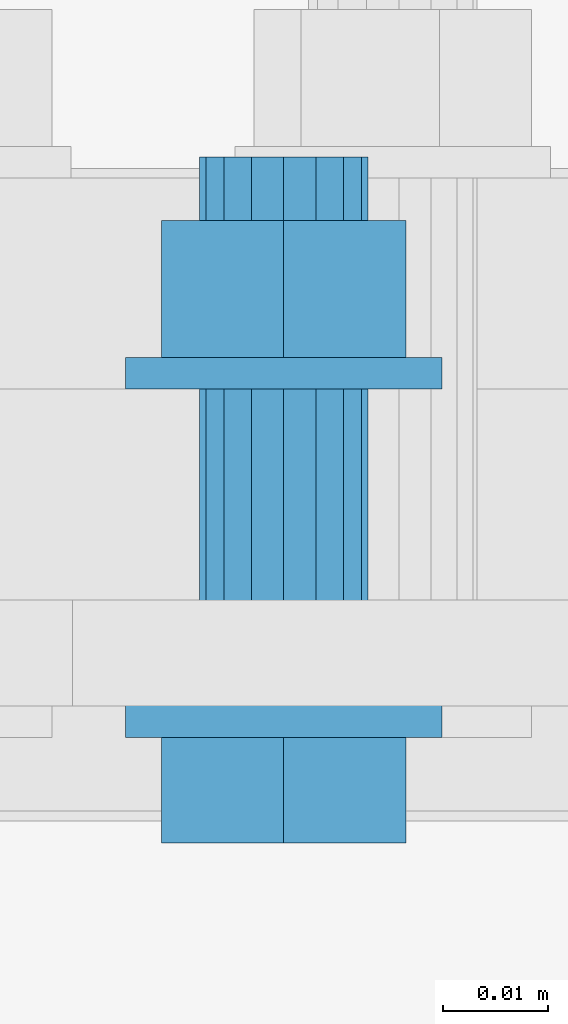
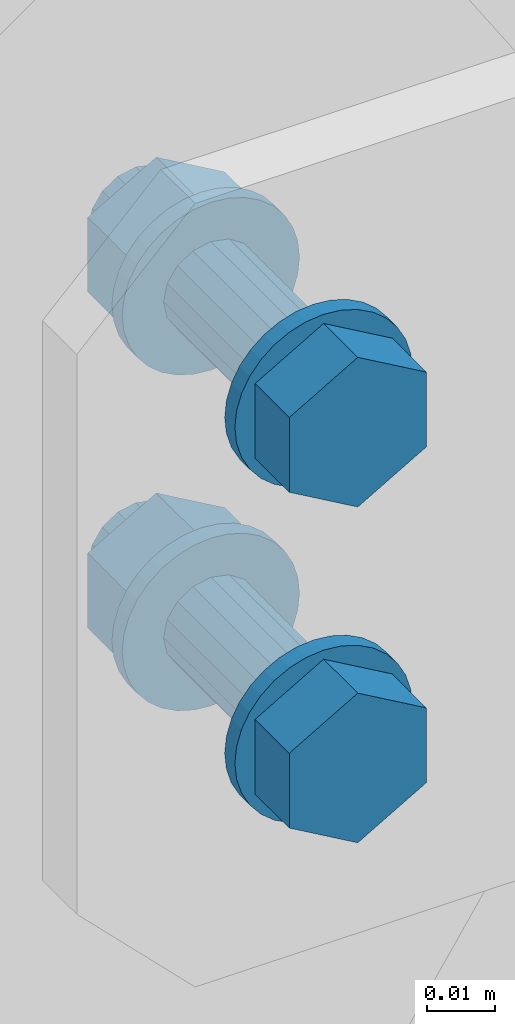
# One storey, part 368 of 825: 1 mechanical fastener.
"""IFC2X3 building model written with IfcOpenShell, lengths in millimetres."""

from ifc_helpers import new_model, entity, si_unit, converted_unit, origin_with_axes, place, context, project, spatial, faceted_brep, element, save


model = new_model("IFC2X3")

# Units and contexts
model_context = context("Model", 3, precision=1e-09, world=origin_with_axes())
ifc_project = project(units=[si_unit("LENGTHUNIT", "METRE", prefix="MILLI"), si_unit("AREAUNIT", "SQUARE_METRE"), si_unit("VOLUMEUNIT", "CUBIC_METRE"), converted_unit("PLANEANGLEUNIT", "DEGREE", entity("IfcPlaneAngleMeasure", 0.01745329), si_unit("PLANEANGLEUNIT", "RADIAN"), dimensions=[0, 0, 0, 0, 0, 0, 0])], contexts=[model_context])

# Site, building, storey
site_placement = place(None, origin_with_axes())
site = spatial("IfcSite", under=ifc_project, at=site_placement, Name="Cnopf'sche Kinderklinik", CompositionType="ELEMENT")
building_placement = place(site_placement, origin_with_axes())
building = spatial("IfcBuilding", under=site, at=building_placement, Name="Struktur 1", CompositionType="ELEMENT")
storey_placement = place(building_placement, origin_with_axes())
storey = spatial("IfcBuildingStorey", under=building, at=storey_placement, Name="Default Storey", CompositionType="ELEMENT", Elevation=0.0)

# Mechanical fastener
mechanical_fastener_placement = place(None, origin_with_axes())
element("IfcMechanicalFastener", 1, at=mechanical_fastener_placement, inside=storey, ObjectType="-", NominalDiameter=16.0, NominalLength=55.0, context=model_context, shape_type="Brep", body=[
    faceted_brep([(5134.963401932, 7496.736971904, 9646.999996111), (5134.963401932, 7493.736971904, 9646.999996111), (5134.675181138, 7493.736971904, 9644.073641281), (5134.675181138, 7496.736971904, 9644.073641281), (5133.82159492, 7493.736971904, 9641.259744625), (5133.82159492, 7496.736971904, 9641.259744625), (5132.435446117, 7493.736971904, 9638.666442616), (5132.435446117, 7496.736971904, 9638.666442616), (5130.57000365, 7493.736971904, 9636.393394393), (5130.57000365, 7496.736971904, 9636.393394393), (5128.296955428, 7493.736971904, 9634.527951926), (5128.296955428, 7496.736971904, 9634.527951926), (5125.703653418, 7493.736971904, 9633.141803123), (5125.703653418, 7496.736971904, 9633.141803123), (5122.889756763, 7493.736971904, 9632.288216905), (5122.889756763, 7496.736971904, 9632.288216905), (5119.963401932, 7493.736971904, 9631.999996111), (5119.963401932, 7496.736971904, 9631.999996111), (5117.037047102, 7493.736971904, 9632.288216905), (5117.037047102, 7496.736971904, 9632.288216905), (5114.223150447, 7493.736971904, 9633.141803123), (5114.223150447, 7496.736971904, 9633.141803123), (5111.629848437, 7493.736971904, 9634.527951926), (5111.629848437, 7496.736971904, 9634.527951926), (5109.356800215, 7493.736971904, 9636.393394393), (5109.356800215, 7496.736971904, 9636.393394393), (5107.491357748, 7493.736971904, 9638.666442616), (5107.491357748, 7496.736971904, 9638.666442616), (5106.105208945, 7493.736971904, 9641.259744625), (5106.105208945, 7496.736971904, 9641.259744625), (5105.251622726, 7493.736971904, 9644.073641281), (5105.251622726, 7496.736971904, 9644.073641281), (5104.963401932, 7493.736971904, 9646.999996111), (5104.963401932, 7496.736971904, 9646.999996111), (5105.251622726, 7493.736971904, 9649.926350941), (5105.251622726, 7496.736971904, 9649.926350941), (5106.105208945, 7493.736971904, 9652.740247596), (5106.105208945, 7496.736971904, 9652.740247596), (5107.491357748, 7493.736971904, 9655.333549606), (5107.491357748, 7496.736971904, 9655.333549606), (5109.356800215, 7493.736971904, 9657.606597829), (5109.356800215, 7496.736971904, 9657.606597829), (5111.629848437, 7493.736971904, 9659.472040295), (5111.629848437, 7496.736971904, 9659.472040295), (5114.223150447, 7493.736971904, 9660.858189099), (5114.223150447, 7496.736971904, 9660.858189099), (5117.037047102, 7493.736971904, 9661.711775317), (5117.037047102, 7496.736971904, 9661.711775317), (5119.963401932, 7493.736971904, 9661.999996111), (5119.963401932, 7496.736971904, 9661.999996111), (5122.889756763, 7493.736971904, 9661.711775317), (5122.889756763, 7496.736971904, 9661.711775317), (5125.703653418, 7493.736971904, 9660.858189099), (5125.703653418, 7496.736971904, 9660.858189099), (5128.296955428, 7493.736971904, 9659.472040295), (5128.296955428, 7496.736971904, 9659.472040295), (5130.57000365, 7493.736971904, 9657.606597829), (5130.57000365, 7496.736971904, 9657.606597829), (5132.435446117, 7493.736971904, 9655.333549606), (5132.435446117, 7496.736971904, 9655.333549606), (5133.82159492, 7493.736971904, 9652.740247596), (5133.82159492, 7496.736971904, 9652.740247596), (5134.675181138, 7493.736971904, 9649.926350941), (5134.675181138, 7496.736971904, 9649.926350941)], [[[0, 1, 2, 3]], [[3, 2, 4, 5]], [[5, 4, 6, 7]], [[7, 6, 8, 9]], [[9, 8, 10, 11]], [[11, 10, 12, 13]], [[13, 12, 14, 15]], [[15, 14, 16, 17]], [[17, 16, 18, 19]], [[19, 18, 20, 21]], [[21, 20, 22, 23]], [[23, 22, 24, 25]], [[25, 24, 26, 27]], [[27, 26, 28, 29]], [[29, 28, 30, 31]], [[31, 30, 32, 33]], [[33, 32, 34, 35]], [[35, 34, 36, 37]], [[37, 36, 38, 39]], [[39, 38, 40, 41]], [[41, 40, 42, 43]], [[43, 42, 44, 45]], [[45, 44, 46, 47]], [[47, 46, 48, 49]], [[49, 48, 50, 51]], [[51, 50, 52, 53]], [[53, 52, 54, 55]], [[55, 54, 56, 57]], [[57, 56, 58, 59]], [[59, 58, 60, 61]], [[61, 60, 62, 63]], [[63, 62, 1, 0]], [[2, 1, 62, 60, 58, 56, 54, 52, 50, 48, 46, 44, 42, 40, 38, 36, 34, 32, 30, 28, 26, 24, 22, 20, 18, 16, 14, 12, 10, 8, 6, 4]], [[63, 0, 3, 5, 7, 9, 11, 13, 15, 17, 19, 21, 23, 25, 27, 29, 31, 33, 35, 37, 39, 41, 43, 45, 47, 49, 51, 53, 55, 57, 59, 61]]]),
    faceted_brep([(5134.963401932, 7496.736971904, 9586.999996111), (5134.963401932, 7493.736971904, 9586.999996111), (5134.675181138, 7493.736971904, 9584.073641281), (5134.675181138, 7496.736971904, 9584.073641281), (5133.82159492, 7493.736971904, 9581.259744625), (5133.82159492, 7496.736971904, 9581.259744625), (5132.435446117, 7493.736971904, 9578.666442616), (5132.435446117, 7496.736971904, 9578.666442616), (5130.57000365, 7493.736971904, 9576.393394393), (5130.57000365, 7496.736971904, 9576.393394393), (5128.296955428, 7493.736971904, 9574.527951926), (5128.296955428, 7496.736971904, 9574.527951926), (5125.703653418, 7493.736971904, 9573.141803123), (5125.703653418, 7496.736971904, 9573.141803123), (5122.889756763, 7493.736971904, 9572.288216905), (5122.889756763, 7496.736971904, 9572.288216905), (5119.963401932, 7493.736971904, 9571.999996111), (5119.963401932, 7496.736971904, 9571.999996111), (5117.037047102, 7493.736971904, 9572.288216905), (5117.037047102, 7496.736971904, 9572.288216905), (5114.223150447, 7493.736971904, 9573.141803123), (5114.223150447, 7496.736971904, 9573.141803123), (5111.629848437, 7493.736971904, 9574.527951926), (5111.629848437, 7496.736971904, 9574.527951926), (5109.356800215, 7493.736971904, 9576.393394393), (5109.356800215, 7496.736971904, 9576.393394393), (5107.491357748, 7493.736971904, 9578.666442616), (5107.491357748, 7496.736971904, 9578.666442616), (5106.105208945, 7493.736971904, 9581.259744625), (5106.105208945, 7496.736971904, 9581.259744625), (5105.251622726, 7493.736971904, 9584.073641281), (5105.251622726, 7496.736971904, 9584.073641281), (5104.963401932, 7493.736971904, 9586.999996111), (5104.963401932, 7496.736971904, 9586.999996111), (5105.251622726, 7493.736971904, 9589.926350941), (5105.251622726, 7496.736971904, 9589.926350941), (5106.105208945, 7493.736971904, 9592.740247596), (5106.105208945, 7496.736971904, 9592.740247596), (5107.491357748, 7493.736971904, 9595.333549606), (5107.491357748, 7496.736971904, 9595.333549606), (5109.356800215, 7493.736971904, 9597.606597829), (5109.356800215, 7496.736971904, 9597.606597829), (5111.629848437, 7493.736971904, 9599.472040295), (5111.629848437, 7496.736971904, 9599.472040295), (5114.223150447, 7493.736971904, 9600.858189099), (5114.223150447, 7496.736971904, 9600.858189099), (5117.037047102, 7493.736971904, 9601.711775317), (5117.037047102, 7496.736971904, 9601.711775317), (5119.963401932, 7493.736971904, 9601.999996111), (5119.963401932, 7496.736971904, 9601.999996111), (5122.889756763, 7493.736971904, 9601.711775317), (5122.889756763, 7496.736971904, 9601.711775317), (5125.703653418, 7493.736971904, 9600.858189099), (5125.703653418, 7496.736971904, 9600.858189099), (5128.296955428, 7493.736971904, 9599.472040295), (5128.296955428, 7496.736971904, 9599.472040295), (5130.57000365, 7493.736971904, 9597.606597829), (5130.57000365, 7496.736971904, 9597.606597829), (5132.435446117, 7493.736971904, 9595.333549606), (5132.435446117, 7496.736971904, 9595.333549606), (5133.82159492, 7493.736971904, 9592.740247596), (5133.82159492, 7496.736971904, 9592.740247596), (5134.675181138, 7493.736971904, 9589.926350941), (5134.675181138, 7496.736971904, 9589.926350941)], [[[0, 1, 2, 3]], [[3, 2, 4, 5]], [[5, 4, 6, 7]], [[7, 6, 8, 9]], [[9, 8, 10, 11]], [[11, 10, 12, 13]], [[13, 12, 14, 15]], [[15, 14, 16, 17]], [[17, 16, 18, 19]], [[19, 18, 20, 21]], [[21, 20, 22, 23]], [[23, 22, 24, 25]], [[25, 24, 26, 27]], [[27, 26, 28, 29]], [[29, 28, 30, 31]], [[31, 30, 32, 33]], [[33, 32, 34, 35]], [[35, 34, 36, 37]], [[37, 36, 38, 39]], [[39, 38, 40, 41]], [[41, 40, 42, 43]], [[43, 42, 44, 45]], [[45, 44, 46, 47]], [[47, 46, 48, 49]], [[49, 48, 50, 51]], [[51, 50, 52, 53]], [[53, 52, 54, 55]], [[55, 54, 56, 57]], [[57, 56, 58, 59]], [[59, 58, 60, 61]], [[61, 60, 62, 63]], [[63, 62, 1, 0]], [[2, 1, 62, 60, 58, 56, 54, 52, 50, 48, 46, 44, 42, 40, 38, 36, 34, 32, 30, 28, 26, 24, 22, 20, 18, 16, 14, 12, 10, 8, 6, 4]], [[63, 0, 3, 5, 7, 9, 11, 13, 15, 17, 19, 21, 23, 25, 27, 29, 31, 33, 35, 37, 39, 41, 43, 45, 47, 49, 51, 53, 55, 57, 59, 61]]]),
    faceted_brep([(5108.380312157, 7483.736971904, 9640.312496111), (5108.380312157, 7493.736971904, 9640.312496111), (5119.963401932, 7493.736971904, 9633.624996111), (5119.963401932, 7483.736971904, 9633.624996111), (5131.546491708, 7493.736971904, 9640.312496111), (5131.546491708, 7483.736971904, 9640.312496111), (5131.546491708, 7493.736971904, 9653.687496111), (5131.546491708, 7483.736971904, 9653.687496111), (5119.963401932, 7493.736971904, 9660.374996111), (5119.963401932, 7483.736971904, 9660.374996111), (5108.380312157, 7493.736971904, 9653.687496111), (5108.380312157, 7483.736971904, 9653.687496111)], [[[0, 1, 2, 3]], [[3, 2, 4, 5]], [[5, 4, 6, 7]], [[7, 6, 8, 9]], [[9, 8, 10, 11]], [[11, 10, 1, 0]], [[3, 5, 7, 9, 11, 0]], [[2, 1, 10, 8, 6, 4]]]),
    faceted_brep([(5108.380312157, 7483.736971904, 9580.312496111), (5108.380312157, 7493.736971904, 9580.312496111), (5119.963401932, 7493.736971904, 9573.624996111), (5119.963401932, 7483.736971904, 9573.624996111), (5131.546491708, 7493.736971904, 9580.312496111), (5131.546491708, 7483.736971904, 9580.312496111), (5131.546491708, 7493.736971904, 9593.687496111), (5131.546491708, 7483.736971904, 9593.687496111), (5119.963401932, 7493.736971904, 9600.374996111), (5119.963401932, 7483.736971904, 9600.374996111), (5108.380312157, 7493.736971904, 9593.687496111), (5108.380312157, 7483.736971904, 9593.687496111)], [[[0, 1, 2, 3]], [[3, 2, 4, 5]], [[5, 4, 6, 7]], [[7, 6, 8, 9]], [[9, 8, 10, 11]], [[11, 10, 1, 0]], [[3, 5, 7, 9, 11, 0]], [[2, 1, 10, 8, 6, 4]]]),
    faceted_brep([(5127.963401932, 7526.736971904, 9646.999996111), (5127.963401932, 7496.736971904, 9646.999996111), (5127.354438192, 7496.736971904, 9643.938528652), (5127.354438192, 7526.736971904, 9643.938528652), (5125.620256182, 7496.736971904, 9641.343141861), (5125.620256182, 7526.736971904, 9641.343141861), (5123.024869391, 7496.736971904, 9639.608959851), (5123.024869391, 7526.736971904, 9639.608959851), (5119.963401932, 7496.736971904, 9638.999996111), (5119.963401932, 7526.736971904, 9638.999996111), (5116.901934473, 7496.736971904, 9639.608959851), (5116.901934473, 7526.736971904, 9639.608959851), (5114.306547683, 7496.736971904, 9641.343141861), (5114.306547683, 7526.736971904, 9641.343141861), (5112.572365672, 7496.736971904, 9643.938528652), (5112.572365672, 7526.736971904, 9643.938528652), (5111.963401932, 7496.736971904, 9646.999996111), (5111.963401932, 7526.736971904, 9646.999996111), (5112.572365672, 7496.736971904, 9650.06146357), (5112.572365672, 7526.736971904, 9650.06146357), (5114.306547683, 7496.736971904, 9652.65685036), (5114.306547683, 7526.736971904, 9652.65685036), (5116.901934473, 7496.736971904, 9654.391032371), (5116.901934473, 7526.736971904, 9654.391032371), (5119.963401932, 7496.736971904, 9654.999996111), (5119.963401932, 7526.736971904, 9654.999996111), (5123.024869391, 7496.736971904, 9654.391032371), (5123.024869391, 7526.736971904, 9654.391032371), (5125.620256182, 7496.736971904, 9652.65685036), (5125.620256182, 7526.736971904, 9652.65685036), (5127.354438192, 7496.736971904, 9650.06146357), (5127.354438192, 7526.736971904, 9650.06146357)], [[[0, 1, 2, 3]], [[3, 2, 4, 5]], [[5, 4, 6, 7]], [[7, 6, 8, 9]], [[9, 8, 10, 11]], [[11, 10, 12, 13]], [[13, 12, 14, 15]], [[15, 14, 16, 17]], [[17, 16, 18, 19]], [[19, 18, 20, 21]], [[21, 20, 22, 23]], [[23, 22, 24, 25]], [[25, 24, 26, 27]], [[27, 26, 28, 29]], [[29, 28, 30, 31]], [[31, 30, 1, 0]], [[2, 1, 30, 28, 26, 24, 22, 20, 18, 16, 14, 12, 10, 8, 6, 4]], [[31, 0, 3, 5, 7, 9, 11, 13, 15, 17, 19, 21, 23, 25, 27, 29]]]),
    faceted_brep([(5127.963401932, 7526.736971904, 9586.999996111), (5127.963401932, 7496.736971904, 9586.999996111), (5127.354438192, 7496.736971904, 9583.938528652), (5127.354438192, 7526.736971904, 9583.938528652), (5125.620256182, 7496.736971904, 9581.343141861), (5125.620256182, 7526.736971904, 9581.343141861), (5123.024869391, 7496.736971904, 9579.608959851), (5123.024869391, 7526.736971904, 9579.608959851), (5119.963401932, 7496.736971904, 9578.999996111), (5119.963401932, 7526.736971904, 9578.999996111), (5116.901934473, 7496.736971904, 9579.608959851), (5116.901934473, 7526.736971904, 9579.608959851), (5114.306547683, 7496.736971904, 9581.343141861), (5114.306547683, 7526.736971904, 9581.343141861), (5112.572365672, 7496.736971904, 9583.938528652), (5112.572365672, 7526.736971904, 9583.938528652), (5111.963401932, 7496.736971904, 9586.999996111), (5111.963401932, 7526.736971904, 9586.999996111), (5112.572365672, 7496.736971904, 9590.06146357), (5112.572365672, 7526.736971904, 9590.06146357), (5114.306547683, 7496.736971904, 9592.65685036), (5114.306547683, 7526.736971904, 9592.65685036), (5116.901934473, 7496.736971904, 9594.391032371), (5116.901934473, 7526.736971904, 9594.391032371), (5119.963401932, 7496.736971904, 9594.999996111), (5119.963401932, 7526.736971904, 9594.999996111), (5123.024869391, 7496.736971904, 9594.391032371), (5123.024869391, 7526.736971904, 9594.391032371), (5125.620256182, 7496.736971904, 9592.65685036), (5125.620256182, 7526.736971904, 9592.65685036), (5127.354438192, 7496.736971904, 9590.06146357), (5127.354438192, 7526.736971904, 9590.06146357)], [[[0, 1, 2, 3]], [[3, 2, 4, 5]], [[5, 4, 6, 7]], [[7, 6, 8, 9]], [[9, 8, 10, 11]], [[11, 10, 12, 13]], [[13, 12, 14, 15]], [[15, 14, 16, 17]], [[17, 16, 18, 19]], [[19, 18, 20, 21]], [[21, 20, 22, 23]], [[23, 22, 24, 25]], [[25, 24, 26, 27]], [[27, 26, 28, 29]], [[29, 28, 30, 31]], [[31, 30, 1, 0]], [[2, 1, 30, 28, 26, 24, 22, 20, 18, 16, 14, 12, 10, 8, 6, 4]], [[31, 0, 3, 5, 7, 9, 11, 13, 15, 17, 19, 21, 23, 25, 27, 29]]]),
    faceted_brep([(5134.963401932, 7529.736971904, 9646.999996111), (5134.963401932, 7526.736971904, 9646.999996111), (5134.675181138, 7526.736971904, 9644.073641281), (5134.675181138, 7529.736971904, 9644.073641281), (5133.82159492, 7526.736971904, 9641.259744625), (5133.82159492, 7529.736971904, 9641.259744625), (5132.435446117, 7526.736971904, 9638.666442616), (5132.435446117, 7529.736971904, 9638.666442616), (5130.57000365, 7526.736971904, 9636.393394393), (5130.57000365, 7529.736971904, 9636.393394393), (5128.296955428, 7526.736971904, 9634.527951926), (5128.296955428, 7529.736971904, 9634.527951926), (5125.703653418, 7526.736971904, 9633.141803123), (5125.703653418, 7529.736971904, 9633.141803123), (5122.889756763, 7526.736971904, 9632.288216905), (5122.889756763, 7529.736971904, 9632.288216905), (5119.963401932, 7526.736971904, 9631.999996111), (5119.963401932, 7529.736971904, 9631.999996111), (5117.037047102, 7526.736971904, 9632.288216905), (5117.037047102, 7529.736971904, 9632.288216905), (5114.223150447, 7526.736971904, 9633.141803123), (5114.223150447, 7529.736971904, 9633.141803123), (5111.629848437, 7526.736971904, 9634.527951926), (5111.629848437, 7529.736971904, 9634.527951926), (5109.356800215, 7526.736971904, 9636.393394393), (5109.356800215, 7529.736971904, 9636.393394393), (5107.491357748, 7526.736971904, 9638.666442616), (5107.491357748, 7529.736971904, 9638.666442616), (5106.105208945, 7526.736971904, 9641.259744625), (5106.105208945, 7529.736971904, 9641.259744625), (5105.251622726, 7526.736971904, 9644.073641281), (5105.251622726, 7529.736971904, 9644.073641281), (5104.963401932, 7526.736971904, 9646.999996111), (5104.963401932, 7529.736971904, 9646.999996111), (5105.251622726, 7526.736971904, 9649.926350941), (5105.251622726, 7529.736971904, 9649.926350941), (5106.105208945, 7526.736971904, 9652.740247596), (5106.105208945, 7529.736971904, 9652.740247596), (5107.491357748, 7526.736971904, 9655.333549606), (5107.491357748, 7529.736971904, 9655.333549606), (5109.356800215, 7526.736971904, 9657.606597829), (5109.356800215, 7529.736971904, 9657.606597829), (5111.629848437, 7526.736971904, 9659.472040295), (5111.629848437, 7529.736971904, 9659.472040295), (5114.223150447, 7526.736971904, 9660.858189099), (5114.223150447, 7529.736971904, 9660.858189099), (5117.037047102, 7526.736971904, 9661.711775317), (5117.037047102, 7529.736971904, 9661.711775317), (5119.963401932, 7526.736971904, 9661.999996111), (5119.963401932, 7529.736971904, 9661.999996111), (5122.889756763, 7526.736971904, 9661.711775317), (5122.889756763, 7529.736971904, 9661.711775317), (5125.703653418, 7526.736971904, 9660.858189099), (5125.703653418, 7529.736971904, 9660.858189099), (5128.296955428, 7526.736971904, 9659.472040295), (5128.296955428, 7529.736971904, 9659.472040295), (5130.57000365, 7526.736971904, 9657.606597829), (5130.57000365, 7529.736971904, 9657.606597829), (5132.435446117, 7526.736971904, 9655.333549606), (5132.435446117, 7529.736971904, 9655.333549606), (5133.82159492, 7526.736971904, 9652.740247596), (5133.82159492, 7529.736971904, 9652.740247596), (5134.675181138, 7526.736971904, 9649.926350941), (5134.675181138, 7529.736971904, 9649.926350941)], [[[0, 1, 2, 3]], [[3, 2, 4, 5]], [[5, 4, 6, 7]], [[7, 6, 8, 9]], [[9, 8, 10, 11]], [[11, 10, 12, 13]], [[13, 12, 14, 15]], [[15, 14, 16, 17]], [[17, 16, 18, 19]], [[19, 18, 20, 21]], [[21, 20, 22, 23]], [[23, 22, 24, 25]], [[25, 24, 26, 27]], [[27, 26, 28, 29]], [[29, 28, 30, 31]], [[31, 30, 32, 33]], [[33, 32, 34, 35]], [[35, 34, 36, 37]], [[37, 36, 38, 39]], [[39, 38, 40, 41]], [[41, 40, 42, 43]], [[43, 42, 44, 45]], [[45, 44, 46, 47]], [[47, 46, 48, 49]], [[49, 48, 50, 51]], [[51, 50, 52, 53]], [[53, 52, 54, 55]], [[55, 54, 56, 57]], [[57, 56, 58, 59]], [[59, 58, 60, 61]], [[61, 60, 62, 63]], [[63, 62, 1, 0]], [[2, 1, 62, 60, 58, 56, 54, 52, 50, 48, 46, 44, 42, 40, 38, 36, 34, 32, 30, 28, 26, 24, 22, 20, 18, 16, 14, 12, 10, 8, 6, 4]], [[63, 0, 3, 5, 7, 9, 11, 13, 15, 17, 19, 21, 23, 25, 27, 29, 31, 33, 35, 37, 39, 41, 43, 45, 47, 49, 51, 53, 55, 57, 59, 61]]]),
    faceted_brep([(5134.963401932, 7529.736971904, 9586.999996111), (5134.963401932, 7526.736971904, 9586.999996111), (5134.675181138, 7526.736971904, 9584.073641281), (5134.675181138, 7529.736971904, 9584.073641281), (5133.82159492, 7526.736971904, 9581.259744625), (5133.82159492, 7529.736971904, 9581.259744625), (5132.435446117, 7526.736971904, 9578.666442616), (5132.435446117, 7529.736971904, 9578.666442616), (5130.57000365, 7526.736971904, 9576.393394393), (5130.57000365, 7529.736971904, 9576.393394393), (5128.296955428, 7526.736971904, 9574.527951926), (5128.296955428, 7529.736971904, 9574.527951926), (5125.703653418, 7526.736971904, 9573.141803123), (5125.703653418, 7529.736971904, 9573.141803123), (5122.889756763, 7526.736971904, 9572.288216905), (5122.889756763, 7529.736971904, 9572.288216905), (5119.963401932, 7526.736971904, 9571.999996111), (5119.963401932, 7529.736971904, 9571.999996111), (5117.037047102, 7526.736971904, 9572.288216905), (5117.037047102, 7529.736971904, 9572.288216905), (5114.223150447, 7526.736971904, 9573.141803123), (5114.223150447, 7529.736971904, 9573.141803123), (5111.629848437, 7526.736971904, 9574.527951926), (5111.629848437, 7529.736971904, 9574.527951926), (5109.356800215, 7526.736971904, 9576.393394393), (5109.356800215, 7529.736971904, 9576.393394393), (5107.491357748, 7526.736971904, 9578.666442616), (5107.491357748, 7529.736971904, 9578.666442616), (5106.105208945, 7526.736971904, 9581.259744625), (5106.105208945, 7529.736971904, 9581.259744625), (5105.251622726, 7526.736971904, 9584.073641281), (5105.251622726, 7529.736971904, 9584.073641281), (5104.963401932, 7526.736971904, 9586.999996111), (5104.963401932, 7529.736971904, 9586.999996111), (5105.251622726, 7526.736971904, 9589.926350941), (5105.251622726, 7529.736971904, 9589.926350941), (5106.105208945, 7526.736971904, 9592.740247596), (5106.105208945, 7529.736971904, 9592.740247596), (5107.491357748, 7526.736971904, 9595.333549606), (5107.491357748, 7529.736971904, 9595.333549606), (5109.356800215, 7526.736971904, 9597.606597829), (5109.356800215, 7529.736971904, 9597.606597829), (5111.629848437, 7526.736971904, 9599.472040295), (5111.629848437, 7529.736971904, 9599.472040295), (5114.223150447, 7526.736971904, 9600.858189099), (5114.223150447, 7529.736971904, 9600.858189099), (5117.037047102, 7526.736971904, 9601.711775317), (5117.037047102, 7529.736971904, 9601.711775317), (5119.963401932, 7526.736971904, 9601.999996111), (5119.963401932, 7529.736971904, 9601.999996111), (5122.889756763, 7526.736971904, 9601.711775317), (5122.889756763, 7529.736971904, 9601.711775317), (5125.703653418, 7526.736971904, 9600.858189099), (5125.703653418, 7529.736971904, 9600.858189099), (5128.296955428, 7526.736971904, 9599.472040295), (5128.296955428, 7529.736971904, 9599.472040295), (5130.57000365, 7526.736971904, 9597.606597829), (5130.57000365, 7529.736971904, 9597.606597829), (5132.435446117, 7526.736971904, 9595.333549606), (5132.435446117, 7529.736971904, 9595.333549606), (5133.82159492, 7526.736971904, 9592.740247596), (5133.82159492, 7529.736971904, 9592.740247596), (5134.675181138, 7526.736971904, 9589.926350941), (5134.675181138, 7529.736971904, 9589.926350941)], [[[0, 1, 2, 3]], [[3, 2, 4, 5]], [[5, 4, 6, 7]], [[7, 6, 8, 9]], [[9, 8, 10, 11]], [[11, 10, 12, 13]], [[13, 12, 14, 15]], [[15, 14, 16, 17]], [[17, 16, 18, 19]], [[19, 18, 20, 21]], [[21, 20, 22, 23]], [[23, 22, 24, 25]], [[25, 24, 26, 27]], [[27, 26, 28, 29]], [[29, 28, 30, 31]], [[31, 30, 32, 33]], [[33, 32, 34, 35]], [[35, 34, 36, 37]], [[37, 36, 38, 39]], [[39, 38, 40, 41]], [[41, 40, 42, 43]], [[43, 42, 44, 45]], [[45, 44, 46, 47]], [[47, 46, 48, 49]], [[49, 48, 50, 51]], [[51, 50, 52, 53]], [[53, 52, 54, 55]], [[55, 54, 56, 57]], [[57, 56, 58, 59]], [[59, 58, 60, 61]], [[61, 60, 62, 63]], [[63, 62, 1, 0]], [[2, 1, 62, 60, 58, 56, 54, 52, 50, 48, 46, 44, 42, 40, 38, 36, 34, 32, 30, 28, 26, 24, 22, 20, 18, 16, 14, 12, 10, 8, 6, 4]], [[63, 0, 3, 5, 7, 9, 11, 13, 15, 17, 19, 21, 23, 25, 27, 29, 31, 33, 35, 37, 39, 41, 43, 45, 47, 49, 51, 53, 55, 57, 59, 61]]]),
    faceted_brep([(5108.380312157, 7529.736971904, 9640.312496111), (5108.380312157, 7542.736971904, 9640.312496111), (5119.963401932, 7542.736971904, 9633.624996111), (5119.963401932, 7529.736971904, 9633.624996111), (5131.546491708, 7542.736971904, 9640.312496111), (5131.546491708, 7529.736971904, 9640.312496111), (5131.546491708, 7542.736971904, 9653.687496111), (5131.546491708, 7529.736971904, 9653.687496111), (5119.963401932, 7542.736971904, 9660.374996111), (5119.963401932, 7529.736971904, 9660.374996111), (5108.380312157, 7542.736971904, 9653.687496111), (5108.380312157, 7529.736971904, 9653.687496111)], [[[0, 1, 2, 3]], [[3, 2, 4, 5]], [[5, 4, 6, 7]], [[7, 6, 8, 9]], [[9, 8, 10, 11]], [[11, 10, 1, 0]], [[3, 5, 7, 9, 11, 0]], [[2, 1, 10, 8, 6, 4]]]),
    faceted_brep([(5108.380312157, 7529.736971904, 9580.312496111), (5108.380312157, 7542.736971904, 9580.312496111), (5119.963401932, 7542.736971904, 9573.624996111), (5119.963401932, 7529.736971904, 9573.624996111), (5131.546491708, 7542.736971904, 9580.312496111), (5131.546491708, 7529.736971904, 9580.312496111), (5131.546491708, 7542.736971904, 9593.687496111), (5131.546491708, 7529.736971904, 9593.687496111), (5119.963401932, 7542.736971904, 9600.374996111), (5119.963401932, 7529.736971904, 9600.374996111), (5108.380312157, 7542.736971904, 9593.687496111), (5108.380312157, 7529.736971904, 9593.687496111)], [[[0, 1, 2, 3]], [[3, 2, 4, 5]], [[5, 4, 6, 7]], [[7, 6, 8, 9]], [[9, 8, 10, 11]], [[11, 10, 1, 0]], [[3, 5, 7, 9, 11, 0]], [[2, 1, 10, 8, 6, 4]]]),
    faceted_brep([(5127.963401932, 7548.736971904, 9646.999996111), (5127.963401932, 7542.736971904, 9646.999996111), (5127.354438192, 7542.736971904, 9643.938528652), (5127.354438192, 7548.736971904, 9643.938528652), (5125.620256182, 7542.736971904, 9641.343141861), (5125.620256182, 7548.736971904, 9641.343141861), (5123.024869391, 7542.736971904, 9639.608959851), (5123.024869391, 7548.736971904, 9639.608959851), (5119.963401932, 7542.736971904, 9638.999996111), (5119.963401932, 7548.736971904, 9638.999996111), (5116.901934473, 7542.736971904, 9639.608959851), (5116.901934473, 7548.736971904, 9639.608959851), (5114.306547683, 7542.736971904, 9641.343141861), (5114.306547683, 7548.736971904, 9641.343141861), (5112.572365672, 7542.736971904, 9643.938528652), (5112.572365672, 7548.736971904, 9643.938528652), (5111.963401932, 7542.736971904, 9646.999996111), (5111.963401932, 7548.736971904, 9646.999996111), (5112.572365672, 7542.736971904, 9650.06146357), (5112.572365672, 7548.736971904, 9650.06146357), (5114.306547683, 7542.736971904, 9652.65685036), (5114.306547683, 7548.736971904, 9652.65685036), (5116.901934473, 7542.736971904, 9654.391032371), (5116.901934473, 7548.736971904, 9654.391032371), (5119.963401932, 7542.736971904, 9654.999996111), (5119.963401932, 7548.736971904, 9654.999996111), (5123.024869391, 7542.736971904, 9654.391032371), (5123.024869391, 7548.736971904, 9654.391032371), (5125.620256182, 7542.736971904, 9652.65685036), (5125.620256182, 7548.736971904, 9652.65685036), (5127.354438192, 7542.736971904, 9650.06146357), (5127.354438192, 7548.736971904, 9650.06146357)], [[[0, 1, 2, 3]], [[3, 2, 4, 5]], [[5, 4, 6, 7]], [[7, 6, 8, 9]], [[9, 8, 10, 11]], [[11, 10, 12, 13]], [[13, 12, 14, 15]], [[15, 14, 16, 17]], [[17, 16, 18, 19]], [[19, 18, 20, 21]], [[21, 20, 22, 23]], [[23, 22, 24, 25]], [[25, 24, 26, 27]], [[27, 26, 28, 29]], [[29, 28, 30, 31]], [[31, 30, 1, 0]], [[2, 1, 30, 28, 26, 24, 22, 20, 18, 16, 14, 12, 10, 8, 6, 4]], [[31, 0, 3, 5, 7, 9, 11, 13, 15, 17, 19, 21, 23, 25, 27, 29]]]),
    faceted_brep([(5127.963401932, 7548.736971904, 9586.999996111), (5127.963401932, 7542.736971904, 9586.999996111), (5127.354438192, 7542.736971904, 9583.938528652), (5127.354438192, 7548.736971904, 9583.938528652), (5125.620256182, 7542.736971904, 9581.343141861), (5125.620256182, 7548.736971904, 9581.343141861), (5123.024869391, 7542.736971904, 9579.608959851), (5123.024869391, 7548.736971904, 9579.608959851), (5119.963401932, 7542.736971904, 9578.999996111), (5119.963401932, 7548.736971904, 9578.999996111), (5116.901934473, 7542.736971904, 9579.608959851), (5116.901934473, 7548.736971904, 9579.608959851), (5114.306547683, 7542.736971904, 9581.343141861), (5114.306547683, 7548.736971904, 9581.343141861), (5112.572365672, 7542.736971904, 9583.938528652), (5112.572365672, 7548.736971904, 9583.938528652), (5111.963401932, 7542.736971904, 9586.999996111), (5111.963401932, 7548.736971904, 9586.999996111), (5112.572365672, 7542.736971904, 9590.06146357), (5112.572365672, 7548.736971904, 9590.06146357), (5114.306547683, 7542.736971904, 9592.65685036), (5114.306547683, 7548.736971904, 9592.65685036), (5116.901934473, 7542.736971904, 9594.391032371), (5116.901934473, 7548.736971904, 9594.391032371), (5119.963401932, 7542.736971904, 9594.999996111), (5119.963401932, 7548.736971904, 9594.999996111), (5123.024869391, 7542.736971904, 9594.391032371), (5123.024869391, 7548.736971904, 9594.391032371), (5125.620256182, 7542.736971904, 9592.65685036), (5125.620256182, 7548.736971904, 9592.65685036), (5127.354438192, 7542.736971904, 9590.06146357), (5127.354438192, 7548.736971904, 9590.06146357)], [[[0, 1, 2, 3]], [[3, 2, 4, 5]], [[5, 4, 6, 7]], [[7, 6, 8, 9]], [[9, 8, 10, 11]], [[11, 10, 12, 13]], [[13, 12, 14, 15]], [[15, 14, 16, 17]], [[17, 16, 18, 19]], [[19, 18, 20, 21]], [[21, 20, 22, 23]], [[23, 22, 24, 25]], [[25, 24, 26, 27]], [[27, 26, 28, 29]], [[29, 28, 30, 31]], [[31, 30, 1, 0]], [[2, 1, 30, 28, 26, 24, 22, 20, 18, 16, 14, 12, 10, 8, 6, 4]], [[31, 0, 3, 5, 7, 9, 11, 13, 15, 17, 19, 21, 23, 25, 27, 29]]]),
])

save(model, "model.ifc")
